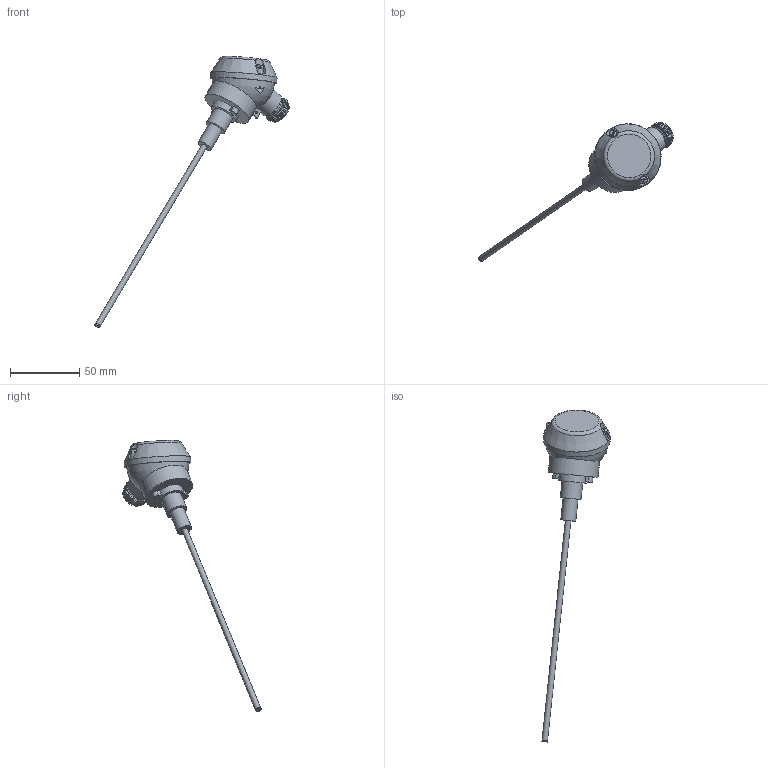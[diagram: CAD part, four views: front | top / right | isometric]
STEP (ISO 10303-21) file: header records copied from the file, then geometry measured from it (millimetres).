
FILE_DESCRIPTION(('STEP AP203'), '1');
FILE_NAME('òñï-í 5.0-160ìì(ñáîðêà)', '', ('UNSPECIFIED'), ('UNSPECIFIED'), 'ASCON STEP Converter 1.6', 'ASCON Math Kernel', '');
FILE_SCHEMA(('CONFIG_CONTROL_DESIGN'));
Length unit declared in the file: millimetre
Products named in the file (17): 栖闉罻; ﾘ琺矜 4; Ãàéêà Ì4; Êë êàëîäêà 731196-002; ﾘ琺矜 758480-006; Êîðïóñ 731196_Ïî óìîë÷àíèþ; Êîëüöî óïëîòíèòåëüíîå 754100-003_Ïî óìîë÷àíèþ; Âèíò Ì3-6; Âèíò 758410-005_Ïî óìîë÷àíèþ; Ïðîêëàäêà 754100_Ïî óìîë÷àíèþ; Êîðïóñ 723110-008-09_Ïî óìîë÷àíèþ; Çàãëóøêà 752513-004-01_Ïî óìîë÷àíèþ; Êðûøêà 753214_Ïî óìîë÷àíèþ; Ïåðåìû÷êà 758480-009; Âòóëêà ðåçüáîâàÿ 715341-002_Ïî óìîë÷àíèþ; Âèíò 715341-003_Ïî óìîë÷àíèþ
Assembly tree (40 placements, depth 3):
  栖闉罻
    ﾘ琺矜 4  x12
    Ãàéêà Ì4  x8
    Êë êàëîäêà 731196-002
    ﾘ琺矜 758480-006  x4
    Êîðïóñ 731196_Ïî óìîë÷àíèþ
    Êîëüöî óïëîòíèòåëüíîå 754100-003_Ïî óìîë÷àíèþ
    Âèíò Ì3-6  x2
    Âèíò 758410-005_Ïî óìîë÷àíèþ  x2
    Ïðîêëàäêà 754100_Ïî óìîë÷àíèþ
    Êîðïóñ 723110-008-09_Ïî óìîë÷àíèþ
      (unnamed)
      Çàãëóøêà 752513-004-01_Ïî óìîë÷àíèþ
    Êðûøêà 753214_Ïî óìîë÷àíèþ
    Ïåðåìû÷êà 758480-009  x2
    Âòóëêà ðåçüáîâàÿ 715341-002_Ïî óìîë÷àíèþ
    Âèíò 715341-003_Ïî óìîë÷àíèþ
Bounding box: 140.11 x 99.61 x 195.36 mm (x, y, z)
Volume: 41435.1 mm3; surface area: 36272.8 mm2
Topology: 39 solids, 39 shells, 821 faces, 2134 edges, 1416 vertices
Faces by surface type: plane 361, cylinder 305, cone 70, bspline 64, torus 19, sphere 2
Full cylindrical faces by diameter (mm): 1.6 x9, 2.46 x2, 2.5 x2, 3 x3, 3.4 x2, 3.5 x1, 4 x14, 4.2 x4, 4.3 x4, 4.5 x1, 5 x2, 5.2 x1, 6 x3, 7 x1, 8 x1, 9 x12, 10 x1, 10.8 x1, 14 x1, 15 x1, 19 x1, 20 x1, 31 x1, 33 x1, 35 x1, 36 x1, 45.5 x1, 46 x1, 48 x1
Entity records: 112943 total; most frequent: CARTESIAN_POINT 95135, ORIENTED_EDGE 2736, DIRECTION 2019, EDGE_CURVE 1368, VERTEX_POINT 950, AXIS2_PLACEMENT_3D 748, EDGE_LOOP 668, B_SPLINE_CURVE_WITH_KNOTS 593
